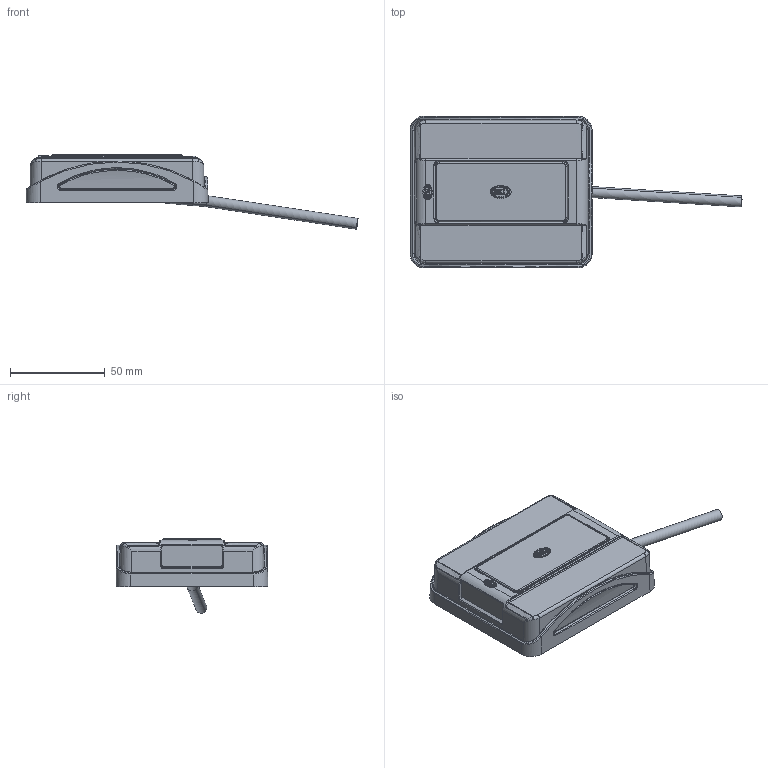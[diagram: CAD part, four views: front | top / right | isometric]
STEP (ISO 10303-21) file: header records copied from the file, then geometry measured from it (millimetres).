
FILE_DESCRIPTION(('CATIA V5 STEP Exchange','CAx-IF Rec.Pracs.--- Model Styling and Organization---1.5--- 2016-08-15','CAx-IF Rec.Pracs.---Supplemental Geometry---1.0---2011-11-01','CAx-IF Rec.Pracs.--- Composite Materials ---1.1---2010-07-15'),'2;1');
FILE_NAME('E:\tmp\ddx\2011206\HELLA_3D_data_LED_rear_lamp_980-720.stp','2022-01-18T07:32:40+00:00',('none'),('none'),'CATIA Version 5-6 Release 2020 SP3 HF9','CATIA V5 STEP AP214 Edition 3 v2','none');
FILE_SCHEMA(('AUTOMOTIVE_DESIGN { 1 0 10303 214 3 1 1 1 }'));
Products named in the file (1): 10002760154_D10_001
Bounding box: 174.99 x 80 x 39.24 mm (x, y, z)
Volume: 155368.9 mm3; surface area: 42737.9 mm2
Topology: 2 solids, 2 shells, 848 faces, 2276 edges, 1427 vertices
Faces by surface type: plane 259, bspline 227, cylinder 167, cone 125, torus 46, sphere 24
Entity records: 38797 total; most frequent: CARTESIAN_POINT 24438, ORIENTED_EDGE 4508, EDGE_CURVE 2254, VERTEX_POINT 1427, DIRECTION 1244, B_SPLINE_CURVE_WITH_KNOTS 1010, EDGE_LOOP 893, ADVANCED_FACE 848
